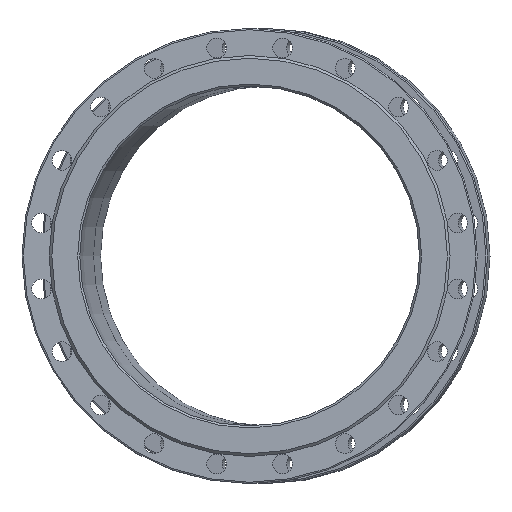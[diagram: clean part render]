
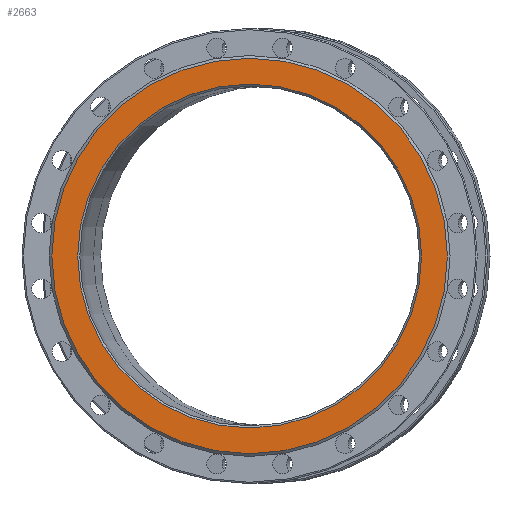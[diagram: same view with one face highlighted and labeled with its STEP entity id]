
A CAD part, left-side view. The second image highlights one B-rep face of the part: STEP entity #2663.
In plain terms, the highlighted planar face has unit normal (-1, 0, 0).
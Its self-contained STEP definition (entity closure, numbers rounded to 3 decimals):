
#53 = CARTESIAN_POINT ( 'NONE',  ( -135., 291., 0. ) ) ;
#256 = AXIS2_PLACEMENT_3D ( 'NONE', #2383, #2181, #377 ) ;
#377 = DIRECTION ( 'NONE',  ( 0., 1., 0. ) ) ;
#454 = EDGE_LOOP ( 'NONE', ( #1545 ) ) ;
#516 = PLANE ( 'NONE',  #2967 ) ;
#544 = VERTEX_POINT ( 'NONE', #53 ) ;
#597 = EDGE_CURVE ( 'NONE', #2186, #2186, #1037, .T. ) ;
#680 = CARTESIAN_POINT ( 'NONE',  ( -135., 253., 0. ) ) ;
#753 = FACE_BOUND ( 'NONE', #2581, .T. ) ;
#1008 = DIRECTION ( 'NONE',  ( 0., 1., 0. ) ) ;
#1037 = CIRCLE ( 'NONE', #1952, 253. ) ;
#1218 = DIRECTION ( 'NONE',  ( 1., 0., 0. ) ) ;
#1480 = DIRECTION ( 'NONE',  ( 0., 1., 0. ) ) ;
#1545 = ORIENTED_EDGE ( 'NONE', *, *, #2263, .F. ) ;
#1815 = FACE_OUTER_BOUND ( 'NONE', #454, .T. ) ;
#1851 = ORIENTED_EDGE ( 'NONE', *, *, #597, .T. ) ;
#1952 = AXIS2_PLACEMENT_3D ( 'NONE', #2241, #1218, #1480 ) ;
#2181 = DIRECTION ( 'NONE',  ( 1., 0., 0. ) ) ;
#2186 = VERTEX_POINT ( 'NONE', #680 ) ;
#2241 = CARTESIAN_POINT ( 'NONE',  ( -135., 0., 0. ) ) ;
#2263 = EDGE_CURVE ( 'NONE', #544, #544, #3285, .T. ) ;
#2383 = CARTESIAN_POINT ( 'NONE',  ( -135., 0., 0. ) ) ;
#2545 = DIRECTION ( 'NONE',  ( 1., 0., 0. ) ) ;
#2581 = EDGE_LOOP ( 'NONE', ( #1851 ) ) ;
#2663 = ADVANCED_FACE ( 'NONE', ( #753, #1815 ), #516, .F. ) ;
#2820 = CARTESIAN_POINT ( 'NONE',  ( -135., 0., 0. ) ) ;
#2967 = AXIS2_PLACEMENT_3D ( 'NONE', #2820, #2545, #1008 ) ;
#3285 = CIRCLE ( 'NONE', #256, 291. ) ;
